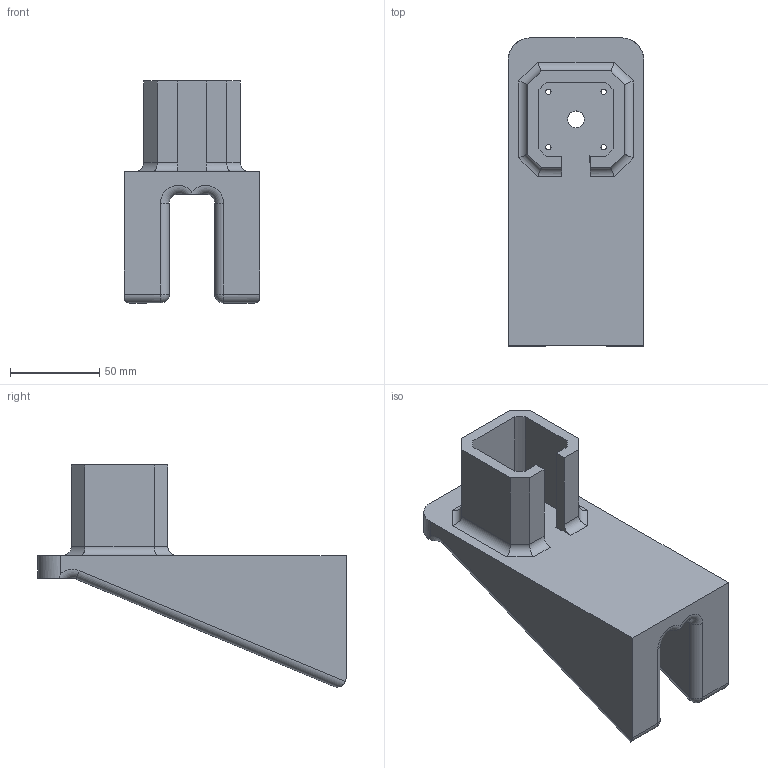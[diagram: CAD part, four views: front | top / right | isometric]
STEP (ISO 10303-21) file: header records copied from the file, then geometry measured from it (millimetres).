
FILE_DESCRIPTION(/* description */ ('STEP AP242 Edition 2','CAx-IF Rec.Pracs.---Representation and Presentation of Product Manufacturing Information (PMI)---4.0---2014-10-13','CAx-IF Rec.Pracs.---3D Tessellated Geometry---0.4---2014-09-14','2;1','CAx-IF Rec.Pracs.---User Defined Attributes---1.5---2016-08-15'),/* implementation_level */ '2;1');
FILE_NAME(/* name */ 'Assembly V2 - Part 12',/* time_stamp */ '2026-02-05T22:44:41Z',/* author */ (''),/* organization */ (''),/* preprocessor_version */ 'ST-DEVELOPER v20',/* originating_system */ 'ONSHAPE BY PTC INC, 1.210',/* authorisation */ ' ');
FILE_SCHEMA (('AP242_MANAGED_MODEL_BASED_3D_ENGINEERING_MIM_LF { 1 0 10303 442 3 1 4 }'));
Length unit declared in the file: metre
Products named in the file (1): Part 12
Bounding box: 76.2 x 172.75 x 124.5 mm (x, y, z)
Volume: 447156.5 mm3; surface area: 70679.3 mm2
Topology: 1 solids, 1 shells, 96 faces, 244 edges, 145 vertices
Faces by surface type: cylinder 46, plane 34, torus 6, sphere 6, bspline 4
Full cylindrical faces by diameter (mm): 3 x4, 9.5 x1
Entity records: 2955 total; most frequent: CARTESIAN_POINT 610, DIRECTION 506, ORIENTED_EDGE 466, EDGE_CURVE 233, AXIS2_PLACEMENT_3D 187, VERTEX_POINT 144, LINE 132, VECTOR 132
